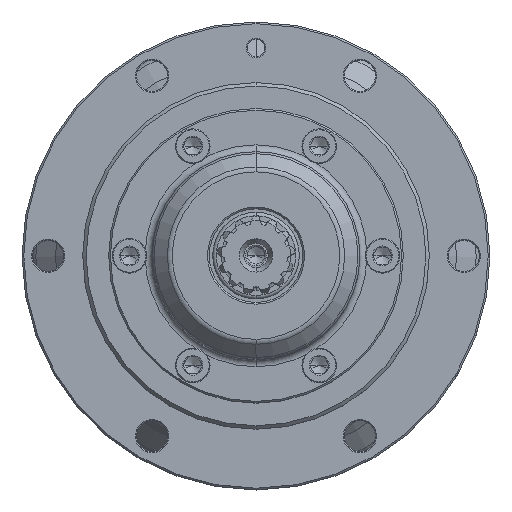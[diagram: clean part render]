
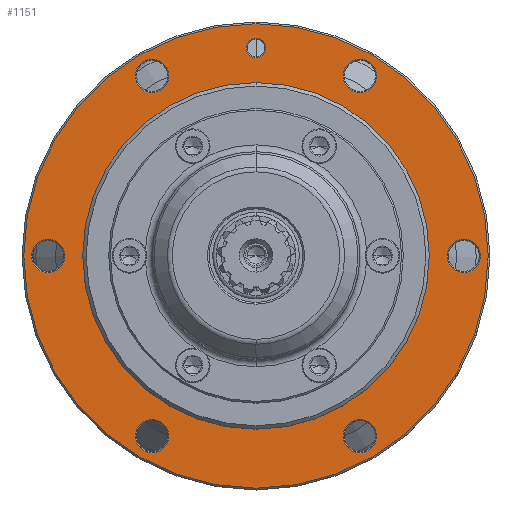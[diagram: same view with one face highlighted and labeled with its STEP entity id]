
A CAD part, top view. The second image highlights one B-rep face of the part: STEP entity #1151.
In plain terms, the highlighted planar face has unit normal (0, 0, 1).
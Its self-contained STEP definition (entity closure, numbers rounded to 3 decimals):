
#12=CARTESIAN_POINT('',(0.,0.,126.5));
#13=DIRECTION('',(0.,0.,1.));
#14=DIRECTION('',(0.,-1.,0.));
#15=AXIS2_PLACEMENT_3D('',#12,#13,#14);
#17=CARTESIAN_POINT('',(0.,0.,126.5));
#18=DIRECTION('',(0.,0.,1.));
#19=DIRECTION('',(0.,1.,0.));
#20=AXIS2_PLACEMENT_3D('',#17,#18,#19);
#22=CARTESIAN_POINT('',(-60.,0.,126.5));
#23=DIRECTION('',(0.,0.,-1.));
#24=DIRECTION('',(-1.,0.,0.));
#25=AXIS2_PLACEMENT_3D('',#22,#23,#24);
#27=CARTESIAN_POINT('',(-60.,0.,126.5));
#28=DIRECTION('',(0.,0.,-1.));
#29=DIRECTION('',(1.,0.,0.));
#30=AXIS2_PLACEMENT_3D('',#27,#28,#29);
#32=CARTESIAN_POINT('',(-30.,-51.962,126.5));
#33=DIRECTION('',(0.,0.,-1.));
#34=DIRECTION('',(-0.5,-0.866,0.));
#35=AXIS2_PLACEMENT_3D('',#32,#33,#34);
#37=CARTESIAN_POINT('',(-30.,-51.962,126.5));
#38=DIRECTION('',(0.,0.,-1.));
#39=DIRECTION('',(0.5,0.866,0.));
#40=AXIS2_PLACEMENT_3D('',#37,#38,#39);
#42=CARTESIAN_POINT('',(30.,-51.962,126.5));
#43=DIRECTION('',(0.,0.,-1.));
#44=DIRECTION('',(0.5,-0.866,0.));
#45=AXIS2_PLACEMENT_3D('',#42,#43,#44);
#47=CARTESIAN_POINT('',(30.,-51.962,126.5));
#48=DIRECTION('',(0.,0.,-1.));
#49=DIRECTION('',(-0.5,0.866,0.));
#50=AXIS2_PLACEMENT_3D('',#47,#48,#49);
#52=CARTESIAN_POINT('',(60.,0.,126.5));
#53=DIRECTION('',(0.,0.,-1.));
#54=DIRECTION('',(1.,0.,0.));
#55=AXIS2_PLACEMENT_3D('',#52,#53,#54);
#57=CARTESIAN_POINT('',(60.,0.,126.5));
#58=DIRECTION('',(0.,0.,-1.));
#59=DIRECTION('',(-1.,0.,0.));
#60=AXIS2_PLACEMENT_3D('',#57,#58,#59);
#62=CARTESIAN_POINT('',(30.,51.962,126.5));
#63=DIRECTION('',(0.,0.,-1.));
#64=DIRECTION('',(0.5,0.866,0.));
#65=AXIS2_PLACEMENT_3D('',#62,#63,#64);
#67=CARTESIAN_POINT('',(30.,51.962,126.5));
#68=DIRECTION('',(0.,0.,-1.));
#69=DIRECTION('',(-0.5,-0.866,0.));
#70=AXIS2_PLACEMENT_3D('',#67,#68,#69);
#72=CARTESIAN_POINT('',(0.,60.,126.5));
#73=DIRECTION('',(0.,0.,-1.));
#74=DIRECTION('',(-1.,0.,0.));
#75=AXIS2_PLACEMENT_3D('',#72,#73,#74);
#77=CARTESIAN_POINT('',(0.,60.,126.5));
#78=DIRECTION('',(0.,0.,-1.));
#79=DIRECTION('',(1.,0.,0.));
#80=AXIS2_PLACEMENT_3D('',#77,#78,#79);
#82=CARTESIAN_POINT('',(-30.,51.962,126.5));
#83=DIRECTION('',(0.,0.,-1.));
#84=DIRECTION('',(0.5,-0.866,0.));
#85=AXIS2_PLACEMENT_3D('',#82,#83,#84);
#87=CARTESIAN_POINT('',(-30.,51.962,126.5));
#88=DIRECTION('',(0.,0.,-1.));
#89=DIRECTION('',(-0.5,0.866,0.));
#90=AXIS2_PLACEMENT_3D('',#87,#88,#89);
#92=CARTESIAN_POINT('',(0.,0.,126.5));
#93=DIRECTION('',(0.,0.,-1.));
#94=DIRECTION('',(0.,1.,0.));
#95=AXIS2_PLACEMENT_3D('',#92,#93,#94);
#123=CARTESIAN_POINT('',(0.,0.,126.5));
#124=DIRECTION('',(0.,0.,1.));
#125=DIRECTION('',(0.,1.,0.));
#126=AXIS2_PLACEMENT_3D('',#123,#124,#125);
#854=CARTESIAN_POINT('',(0.,50.,126.5));
#856=VERTEX_POINT('',#854);
#858=CARTESIAN_POINT('',(0.,-50.,126.5));
#860=VERTEX_POINT('',#858);
#900=CARTESIAN_POINT('',(0.,-67.,126.5));
#901=CARTESIAN_POINT('',(0.,67.,126.5));
#902=VERTEX_POINT('',#900);
#903=VERTEX_POINT('',#901);
#1016=CARTESIAN_POINT('',(-64.8,0.,126.5));
#1017=CARTESIAN_POINT('',(-55.2,0.,126.5));
#1018=VERTEX_POINT('',#1016);
#1019=VERTEX_POINT('',#1017);
#1024=CARTESIAN_POINT('',(-32.4,-56.118,126.5));
#1025=CARTESIAN_POINT('',(-27.6,-47.805,126.5));
#1026=VERTEX_POINT('',#1024);
#1027=VERTEX_POINT('',#1025);
#1032=CARTESIAN_POINT('',(32.4,-56.118,126.5));
#1033=CARTESIAN_POINT('',(27.6,-47.805,126.5));
#1034=VERTEX_POINT('',#1032);
#1035=VERTEX_POINT('',#1033);
#1040=CARTESIAN_POINT('',(64.8,0.,126.5));
#1041=CARTESIAN_POINT('',(55.2,0.,126.5));
#1042=VERTEX_POINT('',#1040);
#1043=VERTEX_POINT('',#1041);
#1048=CARTESIAN_POINT('',(32.4,56.118,126.5));
#1049=CARTESIAN_POINT('',(27.6,47.805,126.5));
#1050=VERTEX_POINT('',#1048);
#1051=VERTEX_POINT('',#1049);
#1056=CARTESIAN_POINT('',(-2.8,60.,126.5));
#1057=CARTESIAN_POINT('',(2.8,60.,126.5));
#1058=VERTEX_POINT('',#1056);
#1059=VERTEX_POINT('',#1057);
#1064=CARTESIAN_POINT('',(-27.6,47.805,126.5));
#1065=CARTESIAN_POINT('',(-32.4,56.118,126.5));
#1066=VERTEX_POINT('',#1064);
#1067=VERTEX_POINT('',#1065);
#1092=CARTESIAN_POINT('',(0.,0.,126.5));
#1093=DIRECTION('',(0.,0.,-1.));
#1094=DIRECTION('',(0.,-1.,0.));
#1095=AXIS2_PLACEMENT_3D('',#1092,#1093,#1094);
#1096=PLANE('',#1095);
#1098=ORIENTED_EDGE('',*,*,#1097,.F.);
#1100=ORIENTED_EDGE('',*,*,#1099,.F.);
#1101=EDGE_LOOP('',(#1098,#1100));
#1102=FACE_OUTER_BOUND('',#1101,.F.);
#1104=ORIENTED_EDGE('',*,*,#1103,.F.);
#1106=ORIENTED_EDGE('',*,*,#1105,.T.);
#1107=EDGE_LOOP('',(#1104,#1106));
#1108=FACE_BOUND('',#1107,.F.);
#1110=ORIENTED_EDGE('',*,*,#1109,.F.);
#1112=ORIENTED_EDGE('',*,*,#1111,.F.);
#1113=EDGE_LOOP('',(#1110,#1112));
#1114=FACE_BOUND('',#1113,.F.);
#1116=ORIENTED_EDGE('',*,*,#1115,.F.);
#1118=ORIENTED_EDGE('',*,*,#1117,.F.);
#1119=EDGE_LOOP('',(#1116,#1118));
#1120=FACE_BOUND('',#1119,.F.);
#1122=ORIENTED_EDGE('',*,*,#1121,.F.);
#1124=ORIENTED_EDGE('',*,*,#1123,.F.);
#1125=EDGE_LOOP('',(#1122,#1124));
#1126=FACE_BOUND('',#1125,.F.);
#1128=ORIENTED_EDGE('',*,*,#1127,.F.);
#1130=ORIENTED_EDGE('',*,*,#1129,.F.);
#1131=EDGE_LOOP('',(#1128,#1130));
#1132=FACE_BOUND('',#1131,.F.);
#1134=ORIENTED_EDGE('',*,*,#1133,.F.);
#1136=ORIENTED_EDGE('',*,*,#1135,.F.);
#1137=EDGE_LOOP('',(#1134,#1136));
#1138=FACE_BOUND('',#1137,.F.);
#1140=ORIENTED_EDGE('',*,*,#1139,.F.);
#1142=ORIENTED_EDGE('',*,*,#1141,.F.);
#1143=EDGE_LOOP('',(#1140,#1142));
#1144=FACE_BOUND('',#1143,.F.);
#1146=ORIENTED_EDGE('',*,*,#1145,.F.);
#1148=ORIENTED_EDGE('',*,*,#1147,.F.);
#1149=EDGE_LOOP('',(#1146,#1148));
#1150=FACE_BOUND('',#1149,.F.);
#16=CIRCLE('',#15,67.);
#21=CIRCLE('',#20,67.);
#26=CIRCLE('',#25,4.8);
#31=CIRCLE('',#30,4.8);
#36=CIRCLE('',#35,4.8);
#41=CIRCLE('',#40,4.8);
#46=CIRCLE('',#45,4.8);
#51=CIRCLE('',#50,4.8);
#56=CIRCLE('',#55,4.8);
#61=CIRCLE('',#60,4.8);
#66=CIRCLE('',#65,4.8);
#71=CIRCLE('',#70,4.8);
#76=CIRCLE('',#75,2.8);
#81=CIRCLE('',#80,2.8);
#86=CIRCLE('',#85,4.8);
#91=CIRCLE('',#90,4.8);
#96=CIRCLE('',#95,50.);
#127=CIRCLE('',#126,50.);
#1097=EDGE_CURVE('',#902,#903,#16,.T.);
#1099=EDGE_CURVE('',#903,#902,#21,.T.);
#1103=EDGE_CURVE('',#856,#860,#96,.T.);
#1105=EDGE_CURVE('',#856,#860,#127,.T.);
#1109=EDGE_CURVE('',#1018,#1019,#26,.T.);
#1111=EDGE_CURVE('',#1019,#1018,#31,.T.);
#1115=EDGE_CURVE('',#1026,#1027,#36,.T.);
#1117=EDGE_CURVE('',#1027,#1026,#41,.T.);
#1121=EDGE_CURVE('',#1034,#1035,#46,.T.);
#1123=EDGE_CURVE('',#1035,#1034,#51,.T.);
#1127=EDGE_CURVE('',#1042,#1043,#56,.T.);
#1129=EDGE_CURVE('',#1043,#1042,#61,.T.);
#1133=EDGE_CURVE('',#1050,#1051,#66,.T.);
#1135=EDGE_CURVE('',#1051,#1050,#71,.T.);
#1139=EDGE_CURVE('',#1058,#1059,#76,.T.);
#1141=EDGE_CURVE('',#1059,#1058,#81,.T.);
#1145=EDGE_CURVE('',#1066,#1067,#86,.T.);
#1147=EDGE_CURVE('',#1067,#1066,#91,.T.);
#1151=ADVANCED_FACE('',(#1102,#1108,#1114,#1120,#1126,#1132,#1138,#1144,#1150),
#1096,.F.);
